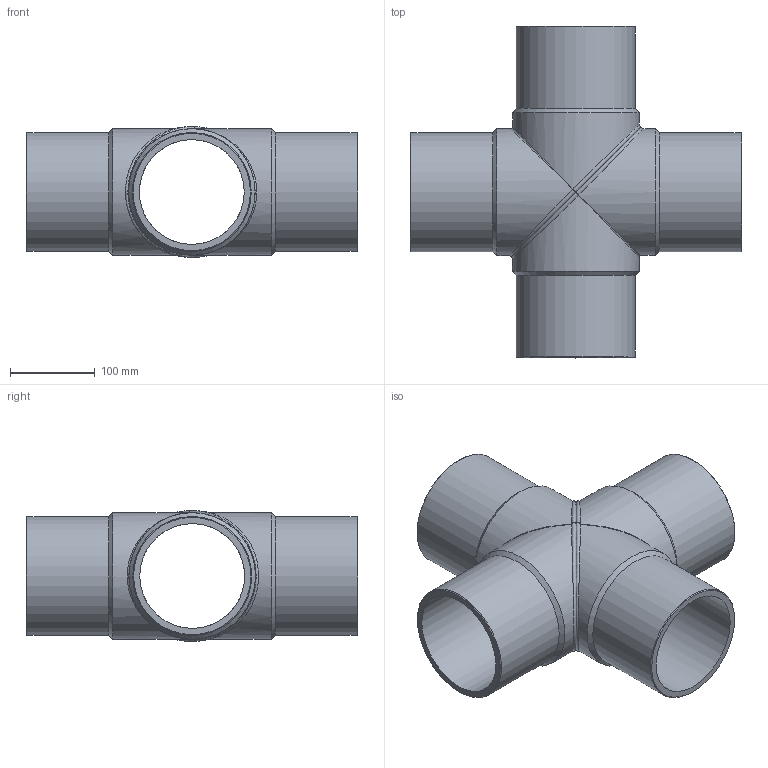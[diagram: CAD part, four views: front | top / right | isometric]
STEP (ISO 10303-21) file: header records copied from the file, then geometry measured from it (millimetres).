
FILE_DESCRIPTION(/* description */ ('Unknown'),/* implementation_level */ '2;1');
FILE_NAME(/* name */ 'CRP140B',/* time_stamp */ '2022-07-08T10:52:01+02:00',/* author */ ('Unknown'),/* organization */ ('Unknown'),/* preprocessor_version */ 'ST-DEVELOPER v18.102',/* originating_system */ 'Solid Edge',/* authorisation */ 'Unknown');
FILE_SCHEMA (('AUTOMOTIVE_DESIGN {1 0 10303 214 3 1 1}'));
Length unit declared in the file: millimetre
Products named in the file (3): CRP140B; CRP140B_mir
Assembly tree (2 placements, depth 2):
  CRP140B
    CRP140B
    CRP140B_mir
Bounding box: 390.5 x 390.5 x 153.99 mm (x, y, z)
Volume: 2516065 mm3; surface area: 540150.9 mm2
Topology: 2 solids, 2 shells, 32 faces, 90 edges, 60 vertices
Faces by surface type: cylinder 12, cone 8, plane 6, bspline 6
Full cylindrical faces by diameter (mm): 123.4 x4, 140 x4, 149 x4
Entity records: 3089 total; most frequent: CARTESIAN_POINT 2361, DIRECTION 126, ORIENTED_EDGE 120, AXIS2_PLACEMENT_3D 63, EDGE_CURVE 60, EDGE_LOOP 58, FACE_BOUND 58, VERTEX_POINT 50
